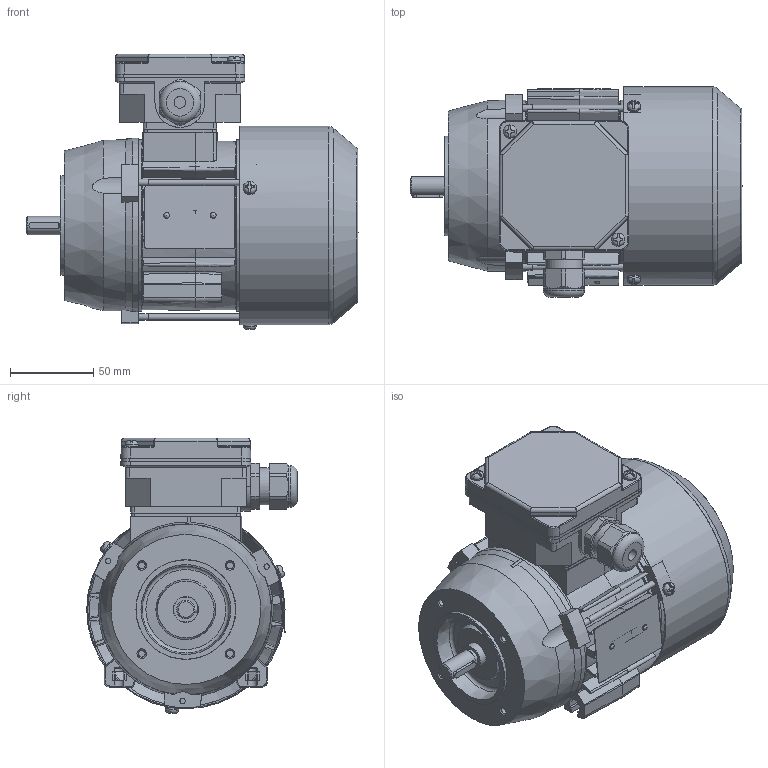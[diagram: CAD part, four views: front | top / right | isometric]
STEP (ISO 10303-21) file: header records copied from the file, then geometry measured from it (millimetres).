
FILE_DESCRIPTION(/* description */ ('Unknown'),/* implementation_level */ '2;1');
FILE_NAME(/* name */ '2SIEK63-4A2',/* time_stamp */ '2021-04-12T11:43:05+02:00',/* author */ ('Unknown'),/* organization */ ('Unknown'),/* preprocessor_version */ 'ST-DEVELOPER v16.7',/* originating_system */ 'Solid Edge',/* authorisation */ 'Unknown');
FILE_SCHEMA (('AUTOMOTIVE_DESIGN {1 0 10303 214 3 1 1}'));
Length unit declared in the file: millimetre
Products named in the file (1): 2SIEK63-4A2
Bounding box: 199.49 x 126.6 x 165.7 mm (x, y, z)
Volume: 470627 mm3; surface area: 299686.5 mm2
Topology: 2 solids, 2 shells, 1768 faces, 4981 edges, 3246 vertices
Faces by surface type: plane 898, cylinder 515, cone 126, torus 116, bspline 92, sphere 21
Full cylindrical faces by diameter (mm): 2.4 x2, 3.242 x3, 3.7 x7, 4 x5, 4.134 x4, 4.5 x3, 4.8 x2, 5 x2, 7 x4, 8 x6, 10.599 x1, 10.999 x1, 12.899 x1, 13.099 x1, 14.998 x2, 15.4 x2, 18.998 x2, 19.498 x1, 19.698 x1, 19.998 x1, 20.098 x1, 21.518 x4, 22.3 x1, 25 x1, 28 x2, 28.48 x4, 31 x2, 35 x3, 60 x1, 71.993 x1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
Entity records: 71651 total; most frequent: CARTESIAN_POINT 15607, ORIENTED_EDGE 9334, DIRECTION 8656, EDGE_CURVE 4667, AXIS2_PLACEMENT_3D 3198, VERTEX_POINT 3130, LINE 2260, VECTOR 2260
